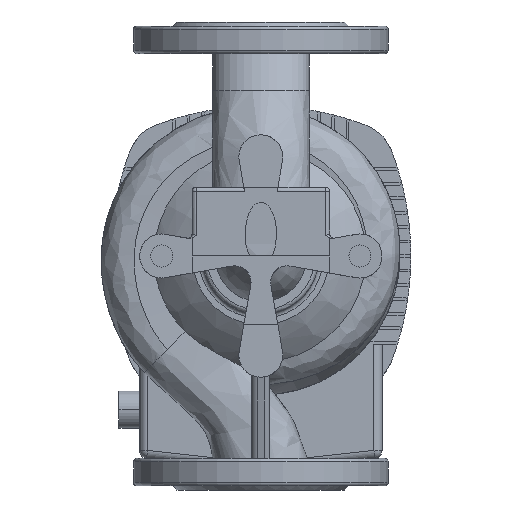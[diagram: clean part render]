
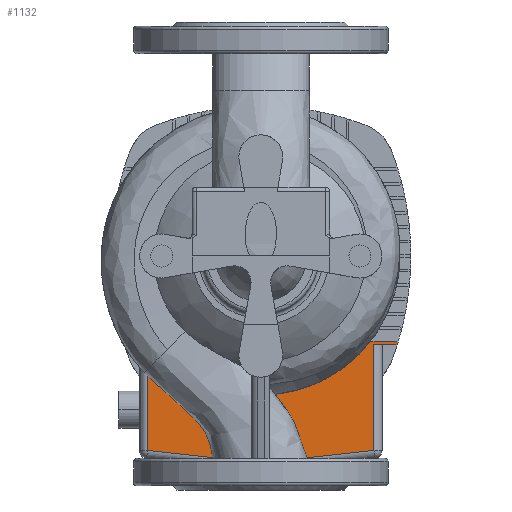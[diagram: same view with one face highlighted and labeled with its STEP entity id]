
A CAD part, front view. The second image highlights one B-rep face of the part: STEP entity #1132.
In plain terms, the highlighted planar face has unit normal (0, -1, 0).
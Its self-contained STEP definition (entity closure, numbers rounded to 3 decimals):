
#1132=ADVANCED_FACE('',(#2665),#1956,.T.);
#1956=PLANE('',#18748);
#2665=FACE_OUTER_BOUND('',#3638,.T.);
#3638=EDGE_LOOP('',(#9438,#9439,#9440,#9441,#9442,#9443,#9444,#9445,#9446,
#9447,#9448,#9449,#9450,#9451));
#5311=LINE('',#32731,#6645);
#5312=LINE('',#32734,#6646);
#5313=LINE('',#32738,#6647);
#5314=LINE('',#32740,#6648);
#5315=LINE('',#32742,#6649);
#5316=LINE('',#32743,#6650);
#5317=LINE('',#32745,#6651);
#5318=LINE('',#32746,#6652);
#5319=LINE('',#32748,#6653);
#5320=LINE('',#32749,#6654);
#6645=VECTOR('',#21860,1.);
#6646=VECTOR('',#21861,1.);
#6647=VECTOR('',#21864,1.);
#6648=VECTOR('',#21865,1.);
#6649=VECTOR('',#21866,1.);
#6650=VECTOR('',#21867,1.);
#6651=VECTOR('',#21868,1.);
#6652=VECTOR('',#21869,1.);
#6653=VECTOR('',#21870,1.);
#6654=VECTOR('',#21871,1.);
#9438=ORIENTED_EDGE('',*,*,#15665,.F.);
#9439=ORIENTED_EDGE('',*,*,#15666,.T.);
#9440=ORIENTED_EDGE('',*,*,#15667,.T.);
#9441=ORIENTED_EDGE('',*,*,#15668,.T.);
#9442=ORIENTED_EDGE('',*,*,#15669,.F.);
#9443=ORIENTED_EDGE('',*,*,#15670,.T.);
#9444=ORIENTED_EDGE('',*,*,#15311,.T.);
#9445=ORIENTED_EDGE('',*,*,#15671,.F.);
#9446=ORIENTED_EDGE('',*,*,#15672,.T.);
#9447=ORIENTED_EDGE('',*,*,#15517,.T.);
#9448=ORIENTED_EDGE('',*,*,#15673,.T.);
#9449=ORIENTED_EDGE('',*,*,#15674,.T.);
#9450=ORIENTED_EDGE('',*,*,#15378,.T.);
#9451=ORIENTED_EDGE('',*,*,#15675,.F.);
#13334=VERTEX_POINT('',#31957);
#13335=VERTEX_POINT('',#31959);
#13396=VERTEX_POINT('',#32126);
#13397=VERTEX_POINT('',#32128);
#13535=VERTEX_POINT('',#32428);
#13536=VERTEX_POINT('',#32430);
#13671=VERTEX_POINT('',#32732);
#13672=VERTEX_POINT('',#32733);
#13673=VERTEX_POINT('',#32735);
#13674=VERTEX_POINT('',#32737);
#13675=VERTEX_POINT('',#32739);
#13676=VERTEX_POINT('',#32741);
#13677=VERTEX_POINT('',#32744);
#13678=VERTEX_POINT('',#32747);
#15311=EDGE_CURVE('',#13335,#13334,#17408,.T.);
#15378=EDGE_CURVE('',#13397,#13396,#17440,.T.);
#15517=EDGE_CURVE('',#13536,#13535,#17510,.T.);
#15665=EDGE_CURVE('',#13671,#13672,#5311,.T.);
#15666=EDGE_CURVE('',#13671,#13673,#5312,.T.);
#15667=EDGE_CURVE('',#13673,#13674,#17582,.T.);
#15668=EDGE_CURVE('',#13674,#13675,#5313,.T.);
#15669=EDGE_CURVE('',#13676,#13675,#5314,.T.);
#15670=EDGE_CURVE('',#13676,#13335,#5315,.T.);
#15671=EDGE_CURVE('',#13677,#13334,#5316,.T.);
#15672=EDGE_CURVE('',#13677,#13536,#5317,.T.);
#15673=EDGE_CURVE('',#13535,#13678,#5318,.T.);
#15674=EDGE_CURVE('',#13678,#13397,#5319,.T.);
#15675=EDGE_CURVE('',#13672,#13396,#5320,.T.);
#17408=CIRCLE('',#18550,215.5);
#17440=CIRCLE('',#18586,215.5);
#17510=CIRCLE('',#18668,90.5);
#17582=CIRCLE('',#18747,501.);
#18550=AXIS2_PLACEMENT_3D('',#31958,#21298,#21299);
#18586=AXIS2_PLACEMENT_3D('',#32127,#21401,#21402);
#18668=AXIS2_PLACEMENT_3D('',#32429,#21630,#21631);
#18747=AXIS2_PLACEMENT_3D('',#32736,#21862,#21863);
#18748=AXIS2_PLACEMENT_3D('',#32750,#21872,#21873);
#21298=DIRECTION('',(0.,-1.,0.));
#21299=DIRECTION('',(1.,0.,0.));
#21401=DIRECTION('',(0.,-1.,0.));
#21402=DIRECTION('',(1.,0.,0.));
#21630=DIRECTION('',(0.,1.,0.));
#21631=DIRECTION('',(-1.,0.,0.));
#21860=DIRECTION('',(-1.,0.,0.));
#21861=DIRECTION('',(0.,0.,-1.));
#21862=DIRECTION('',(0.,-1.,0.));
#21863=DIRECTION('',(0.,0.,1.));
#21864=DIRECTION('',(0.,0.,1.));
#21865=DIRECTION('',(-1.,0.,0.));
#21866=DIRECTION('',(0.954,0.,-0.3));
#21867=DIRECTION('',(0.957,0.,-0.29));
#21868=DIRECTION('',(-1.,0.,0.));
#21869=DIRECTION('',(-1.,0.,0.));
#21870=DIRECTION('',(-0.957,0.,-0.29));
#21871=DIRECTION('',(-0.954,0.,-0.3));
#21872=DIRECTION('',(0.,-1.,0.));
#21873=DIRECTION('',(0.,0.,-1.));
#31957=CARTESIAN_POINT('',(108.635,193.681,-59.43));
#31958=CARTESIAN_POINT('',(-97.579,193.681,3.151));
#31959=CARTESIAN_POINT('',(108.011,193.681,-61.448));
#32126=CARTESIAN_POINT('',(-90.168,193.681,-61.448));
#32127=CARTESIAN_POINT('',(115.421,193.681,3.151));
#32128=CARTESIAN_POINT('',(-90.792,193.681,-59.43));
#32428=CARTESIAN_POINT('',(-57.005,193.681,-58.849));
#32429=CARTESIAN_POINT('',(8.921,193.681,3.151));
#32430=CARTESIAN_POINT('',(74.847,193.681,-58.849));
#32731=CARTESIAN_POINT('',(115.921,193.681,-60.849));
#32732=CARTESIAN_POINT('',(-73.179,193.681,-60.849));
#32733=CARTESIAN_POINT('',(-88.26,193.681,-60.849));
#32734=CARTESIAN_POINT('',(-73.179,193.681,-103.849));
#32735=CARTESIAN_POINT('',(-73.179,193.681,-138.076));
#32736=CARTESIAN_POINT('',(8.921,193.681,356.151));
#32737=CARTESIAN_POINT('',(91.021,193.681,-138.076));
#32738=CARTESIAN_POINT('',(91.021,193.681,-103.849));
#32739=CARTESIAN_POINT('',(91.021,193.681,-60.849));
#32740=CARTESIAN_POINT('',(115.921,193.681,-60.849));
#32741=CARTESIAN_POINT('',(106.103,193.681,-60.849));
#32742=CARTESIAN_POINT('',(106.103,193.681,-60.849));
#32743=CARTESIAN_POINT('',(106.721,193.681,-58.849));
#32744=CARTESIAN_POINT('',(106.721,193.681,-58.849));
#32745=CARTESIAN_POINT('',(115.921,193.681,-58.849));
#32746=CARTESIAN_POINT('',(115.921,193.681,-58.849));
#32747=CARTESIAN_POINT('',(-88.878,193.681,-58.849));
#32748=CARTESIAN_POINT('',(-88.878,193.681,-58.849));
#32749=CARTESIAN_POINT('',(-88.26,193.681,-60.849));
#32750=CARTESIAN_POINT('',(-42.579,193.681,-103.849));
